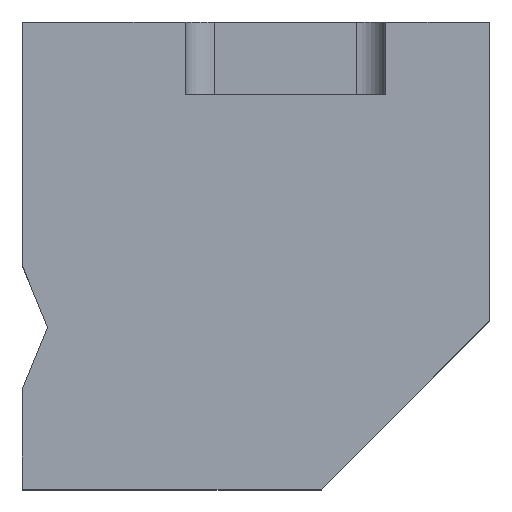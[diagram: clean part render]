
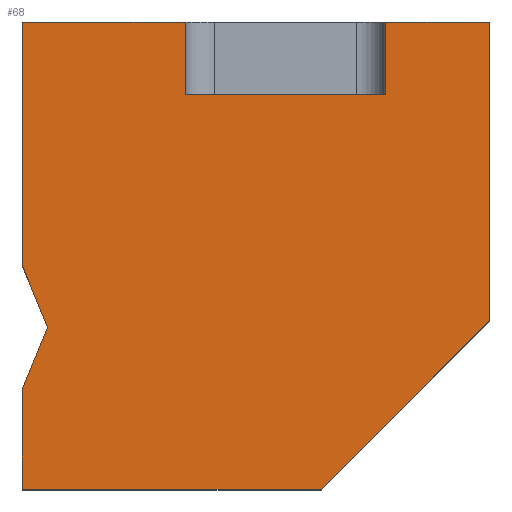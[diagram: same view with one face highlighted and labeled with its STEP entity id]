
A CAD part, top view. The second image highlights one B-rep face of the part: STEP entity #68.
In plain terms, the highlighted planar face has unit normal (0, 0, 1).
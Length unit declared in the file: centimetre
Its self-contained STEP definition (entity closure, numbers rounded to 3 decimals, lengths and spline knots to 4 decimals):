
#8 = EDGE_CURVE ( 'NONE', #279, #626, #94, .T. ) ;
#9 = DIRECTION ( 'NONE',  ( 0., -1., 0. ) ) ;
#10 = ORIENTED_EDGE ( 'NONE', *, *, #563, .T. ) ;
#37 = VERTEX_POINT ( 'NONE', #394 ) ;
#40 = CARTESIAN_POINT ( 'NONE',  ( 0., 0., 1000. ) ) ;
#52 = DIRECTION ( 'NONE',  ( 1., 0., 0. ) ) ;
#53 = DIRECTION ( 'NONE',  ( 0., 1., 0. ) ) ;
#68 = ADVANCED_FACE ( 'NONE', ( #297 ), #344, .T. ) ;
#79 = CARTESIAN_POINT ( 'NONE',  ( 777.4108, 845.5407, 1000. ) ) ;
#80 = LINE ( 'NONE', #313, #590 ) ;
#89 = VECTOR ( 'NONE', #372, 100. ) ;
#91 = ORIENTED_EDGE ( 'NONE', *, *, #194, .F. ) ;
#94 = LINE ( 'NONE', #528, #412 ) ;
#101 = CARTESIAN_POINT ( 'NONE',  ( 0., 1000., 1000. ) ) ;
#105 = ORIENTED_EDGE ( 'NONE', *, *, #290, .F. ) ;
#118 = ORIENTED_EDGE ( 'NONE', *, *, #240, .T. ) ;
#126 = CARTESIAN_POINT ( 'NONE',  ( 0., 0., 1000. ) ) ;
#130 = EDGE_CURVE ( 'NONE', #303, #408, #306, .T. ) ;
#134 = CARTESIAN_POINT ( 'NONE',  ( 1000., 360.197, 1000. ) ) ;
#139 = CARTESIAN_POINT ( 'NONE',  ( 1000., 1000., 1000. ) ) ;
#141 = EDGE_CURVE ( 'NONE', #595, #408, #489, .T. ) ;
#145 = VECTOR ( 'NONE', #383, 100. ) ;
#158 = CARTESIAN_POINT ( 'NONE',  ( 53.8403, 346.5841, 1000. ) ) ;
#168 = DIRECTION ( 'NONE',  ( 0.707, 0.707, 0. ) ) ;
#172 = CARTESIAN_POINT ( 'NONE',  ( 348.6179, 1000., 1000. ) ) ;
#174 = LINE ( 'NONE', #126, #89 ) ;
#185 = VERTEX_POINT ( 'NONE', #540 ) ;
#187 = LINE ( 'NONE', #139, #209 ) ;
#194 = EDGE_CURVE ( 'NONE', #626, #185, #399, .T. ) ;
#205 = EDGE_CURVE ( 'NONE', #385, #37, #255, .T. ) ;
#209 = VECTOR ( 'NONE', #376, 100. ) ;
#212 = DIRECTION ( 'NONE',  ( 0., -1., 0. ) ) ;
#223 = CARTESIAN_POINT ( 'NONE',  ( 0., 1000., 1000. ) ) ;
#225 = ORIENTED_EDGE ( 'NONE', *, *, #496, .T. ) ;
#228 = CARTESIAN_POINT ( 'NONE',  ( 0., 1000., 1000. ) ) ;
#240 = EDGE_CURVE ( 'NONE', #287, #513, #275, .T. ) ;
#255 = LINE ( 'NONE', #396, #261 ) ;
#261 = VECTOR ( 'NONE', #9, 100. ) ;
#275 = LINE ( 'NONE', #459, #617 ) ;
#279 = VERTEX_POINT ( 'NONE', #470 ) ;
#287 = VERTEX_POINT ( 'NONE', #557 ) ;
#290 = EDGE_CURVE ( 'NONE', #37, #595, #80, .T. ) ;
#297 = FACE_OUTER_BOUND ( 'NONE', #573, .T. ) ;
#298 = DIRECTION ( 'NONE',  ( -1., 0., 0. ) ) ;
#303 = VERTEX_POINT ( 'NONE', #324 ) ;
#306 = LINE ( 'NONE', #101, #567 ) ;
#313 = CARTESIAN_POINT ( 'NONE',  ( 0., 845.5407, 1000. ) ) ;
#314 = VECTOR ( 'NONE', #356, 100. ) ;
#322 = CARTESIAN_POINT ( 'NONE',  ( 53.8403, 346.5841, 1000. ) ) ;
#324 = CARTESIAN_POINT ( 'NONE',  ( 1000., 1000., 1000. ) ) ;
#334 = DIRECTION ( 'NONE',  ( 0., -1., 0. ) ) ;
#344 = PLANE ( 'NONE',  #367 ) ;
#353 = CARTESIAN_POINT ( 'NONE',  ( 777.4108, 845.5407, 1000. ) ) ;
#356 = DIRECTION ( 'NONE',  ( -0.379, 0.925, 0. ) ) ;
#367 = AXIS2_PLACEMENT_3D ( 'NONE', #531, #488, #52 ) ;
#369 = LINE ( 'NONE', #448, #503 ) ;
#371 = ORIENTED_EDGE ( 'NONE', *, *, #532, .T. ) ;
#372 = DIRECTION ( 'NONE',  ( 1., 0., 0. ) ) ;
#376 = DIRECTION ( 'NONE',  ( 0., 1., 0. ) ) ;
#383 = DIRECTION ( 'NONE',  ( -1., 0., 0. ) ) ;
#385 = VERTEX_POINT ( 'NONE', #172 ) ;
#394 = CARTESIAN_POINT ( 'NONE',  ( 348.6179, 845.5407, 1000. ) ) ;
#396 = CARTESIAN_POINT ( 'NONE',  ( 348.6179, 845.5407, 1000. ) ) ;
#399 = LINE ( 'NONE', #158, #314 ) ;
#408 = VERTEX_POINT ( 'NONE', #430 ) ;
#412 = VECTOR ( 'NONE', #435, 100. ) ;
#417 = LINE ( 'NONE', #424, #145 ) ;
#424 = CARTESIAN_POINT ( 'NONE',  ( 0., 1000., 1000. ) ) ;
#428 = ORIENTED_EDGE ( 'NONE', *, *, #130, .T. ) ;
#430 = CARTESIAN_POINT ( 'NONE',  ( 777.4108, 1000., 1000. ) ) ;
#431 = ORIENTED_EDGE ( 'NONE', *, *, #8, .F. ) ;
#435 = DIRECTION ( 'NONE',  ( 0.379, 0.925, 0. ) ) ;
#438 = ORIENTED_EDGE ( 'NONE', *, *, #205, .F. ) ;
#448 = CARTESIAN_POINT ( 'NONE',  ( 0., 1000., 1000. ) ) ;
#456 = ORIENTED_EDGE ( 'NONE', *, *, #631, .T. ) ;
#457 = VERTEX_POINT ( 'NONE', #40 ) ;
#459 = CARTESIAN_POINT ( 'NONE',  ( 319.9015, -319.9015, 1000. ) ) ;
#470 = CARTESIAN_POINT ( 'NONE',  ( 0., 215.25, 1000. ) ) ;
#488 = DIRECTION ( 'NONE',  ( 0., 0., 1. ) ) ;
#489 = LINE ( 'NONE', #353, #627 ) ;
#495 = VERTEX_POINT ( 'NONE', #228 ) ;
#496 = EDGE_CURVE ( 'NONE', #513, #303, #187, .T. ) ;
#503 = VECTOR ( 'NONE', #212, 100. ) ;
#504 = DIRECTION ( 'NONE',  ( 1., 0., 0. ) ) ;
#513 = VERTEX_POINT ( 'NONE', #134 ) ;
#528 = CARTESIAN_POINT ( 'NONE',  ( 0., 215.25, 1000. ) ) ;
#531 = CARTESIAN_POINT ( 'NONE',  ( 0., 0., 1000. ) ) ;
#532 = EDGE_CURVE ( 'NONE', #495, #185, #609, .T. ) ;
#535 = VECTOR ( 'NONE', #334, 100. ) ;
#536 = EDGE_CURVE ( 'NONE', #457, #287, #174, .T. ) ;
#540 = CARTESIAN_POINT ( 'NONE',  ( 0., 477.9181, 1000. ) ) ;
#550 = ORIENTED_EDGE ( 'NONE', *, *, #141, .F. ) ;
#557 = CARTESIAN_POINT ( 'NONE',  ( 639.803, 0., 1000. ) ) ;
#563 = EDGE_CURVE ( 'NONE', #385, #495, #417, .T. ) ;
#565 = ORIENTED_EDGE ( 'NONE', *, *, #536, .T. ) ;
#567 = VECTOR ( 'NONE', #298, 100. ) ;
#573 = EDGE_LOOP ( 'NONE', ( #438, #10, #371, #91, #431, #456, #565, #118, #225, #428, #550, #105 ) ) ;
#590 = VECTOR ( 'NONE', #504, 100. ) ;
#595 = VERTEX_POINT ( 'NONE', #79 ) ;
#609 = LINE ( 'NONE', #223, #535 ) ;
#617 = VECTOR ( 'NONE', #168, 100. ) ;
#626 = VERTEX_POINT ( 'NONE', #322 ) ;
#627 = VECTOR ( 'NONE', #53, 100. ) ;
#631 = EDGE_CURVE ( 'NONE', #279, #457, #369, .T. ) ;
